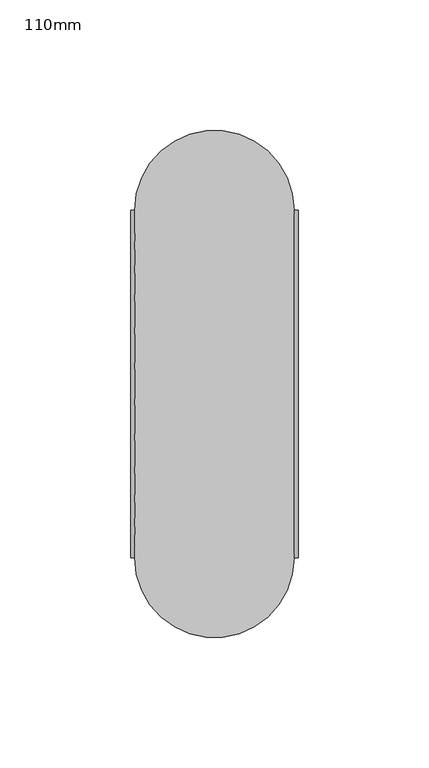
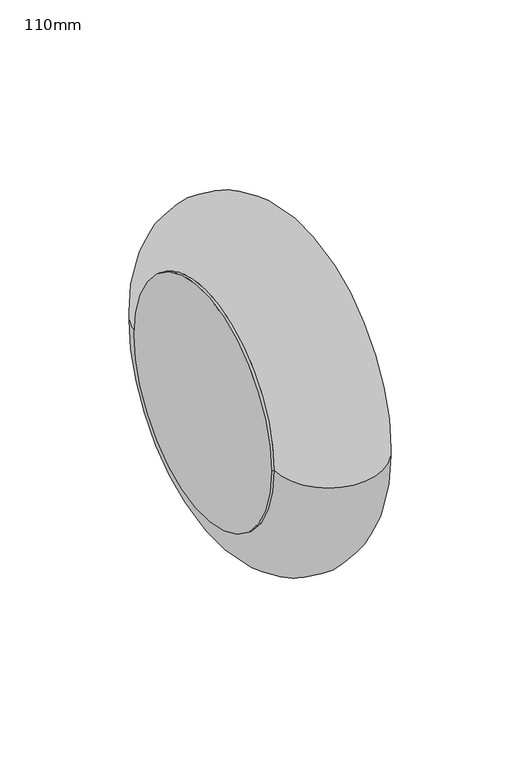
"""IFC4 building model written with IfcOpenShell, lengths in millimetres: pipe fitting geometry, PipeAccessory_HTA_CPVC_LinearExpansionCompensatorPN16 : 110mm."""

from ifc_helpers import new_model, si_unit, point, frame, origin, origin_2d, place, context, project, spatial, circle_curve, ellipse_curve, trimmed, segment, composite_curve, outline, extrude, source, transform, mapped, element, save
from ifc_brep_helpers import plane_surface, revolved_surface, advanced_brep


def pipe_fitting_110mm_7e1aaf0b(model_context):
    return source(origin(), model_context, "Body", "SolidModel", [
        extrude(outline(composite_curve([segment(trimmed(circle_curve(origin_2d(), 66.5), [point((-66.5, 0.0))], [point((66.5, 0.0))], False, "CARTESIAN"), True, "CONTINUOUS"), segment(trimmed(circle_curve(origin_2d(), 66.5), [point((66.5, 0.0))], [point((-66.5, 0.0))], False, "CARTESIAN"), True, "CONTINUOUS")], self_intersect=False)), frame((30.5, 0.0, 0.0), z_axis=(1.0, 0.0, 0.0), x_axis=(0.0, 1.0, 0.0)), (0.0, 0.0, 1.0), 1.5),
        extrude(outline(composite_curve([segment(trimmed(circle_curve(origin_2d(), 66.5), [point((-66.5, 0.0))], [point((66.5, 0.0))], False, "CARTESIAN"), True, "CONTINUOUS"), segment(trimmed(circle_curve(origin_2d(), 66.5), [point((66.5, 0.0))], [point((-66.5, 0.0))], False, "CARTESIAN"), True, "CONTINUOUS")], self_intersect=False)), frame((-32.0, 0.0, 0.0), z_axis=(1.0, 0.0, 0.0), x_axis=(0.0, 1.0, 0.0)), (0.0, 0.0, 1.0), 1.5),
        advanced_brep(
        [(-30.5, 0.0, 0.0), (-30.5, 66.5, 0.0), (-30.5, -66.5, 0.0), (30.5, -66.5, 0.0), (30.5, 66.5, 0.0), (30.5, 0.0, 0.0)],
        [
            (0, 1),
            (1, 2, circle_curve(frame((-30.5, 0.0, 0.0), z_axis=(-1.0, 0.0, 0.0), x_axis=(0.0, 1.0, 0.0)), 66.5)),
            (2, 0),
            (2, 1, circle_curve(frame((-30.5, 0.0, 0.0), z_axis=(-1.0, 0.0, 0.0), x_axis=(0.0, 1.0, 0.0)), 66.5)),
            (3, 4, circle_curve(frame((30.5, 0.0, 0.0), z_axis=(1.0, 0.0, 0.0), x_axis=(0.0, 1.0, 0.0)), 66.5)),
            (4, 5),
            (5, 3),
            (4, 3, circle_curve(frame((30.5, 0.0, 0.0), z_axis=(1.0, 0.0, 0.0), x_axis=(0.0, 1.0, 0.0)), 66.5)),
            (1, 4, circle_curve(frame((0.0, 66.5, 0.0), z_axis=(0.0, 0.0, -1.0), x_axis=(1.0, 0.0, 0.0)), 30.5)),
            (3, 2, circle_curve(frame((0.0, -66.5, 0.0), z_axis=(0.0, 0.0, -1.0), x_axis=(1.0, 0.0, 0.0)), 30.5)),
        ],
        [
            plane_surface(frame((-30.5, 0.0, 0.0), z_axis=(-1.0, 0.0, 0.0), x_axis=(0.0, 1.0, 0.0))),
            plane_surface(frame((30.5, 0.0, 0.0), z_axis=(1.0, 0.0, 0.0), x_axis=(0.0, 1.0, 0.0))),
            revolved_surface(trimmed(ellipse_curve(frame((0.0, 66.5, 0.0), z_axis=(0.0, 0.0, 1.0), x_axis=(1.0, 0.0, 0.0)), 30.5, 30.5), [point((30.5, 66.5, 0.0))], [point((-30.5, 66.5, 0.0))], True, "CARTESIAN"), (-30.5, 0.0, 0.0), (-1.0, 0.0, 0.0)),
        ],
        [
            (0, [[1, 2, 3]]),
            (0, [[-3, 4, -1]]),
            (1, [[5, 6, 7]]),
            (1, [[8, -7, -6]]),
            (2, [[-2, 9, -5, 10]]),
            (2, [[-4, -10, -8, -9]]),
        ],
    ),
    ])


if __name__ == "__main__":
    model = new_model("IFC4")
    model_context = context("Model", 3, world=origin())
    ifc_project = project(units=[si_unit("LENGTHUNIT", "METRE", prefix="MILLI")], contexts=[model_context])
    site = spatial("IfcSite", under=ifc_project)
    building = spatial("IfcBuilding", under=site)
    placement = place(None, origin())
    pipe_fitting_110mm_shape = pipe_fitting_110mm_7e1aaf0b(model_context)
    element("IfcPipeFitting", 1, ObjectType="PipeAccessory_HTA_CPVC_LinearExpansionCompensatorPN16 : 110mm", at=placement, inside=building, context=model_context, shape_type="MappedRepresentation", body=[
        mapped(pipe_fitting_110mm_shape, transform((0.0, 0.0, 0.0), x_axis=(1.0, 0.0, 0.0), y_axis=(0.0, 1.0, 0.0), z_axis=(0.0, 0.0, 1.0))),
    ])
    save(model, "model.ifc")
